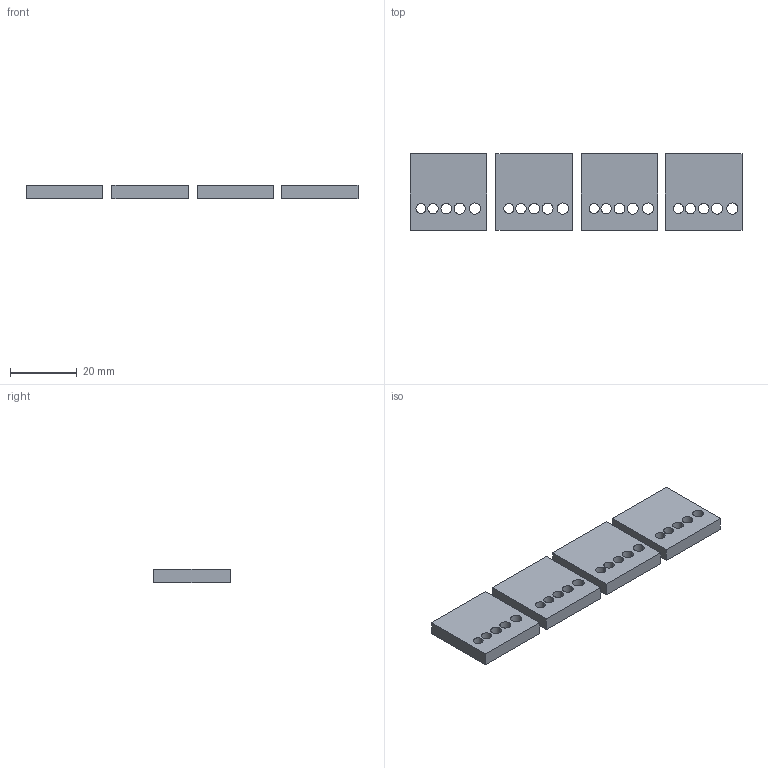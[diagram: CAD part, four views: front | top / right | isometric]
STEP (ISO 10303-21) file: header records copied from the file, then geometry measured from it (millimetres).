
FILE_DESCRIPTION(/* description */ (''),/* implementation_level */ '2;1');
FILE_NAME(/* name */ '3mm Bohrungen Geschwindigkeitstest',/* time_stamp */ '2026-08-25T15:11:19+02:00',/* author */ (''),/* organization */ (''),/* preprocessor_version */ 'ST-DEVELOPER v19.2',/* originating_system */ 'Rhino 8.34',/* authorisation */ '');
FILE_SCHEMA (('CONFIG_CONTROL_DESIGN'));
Length unit declared in the file: millimetre
Products named in the file (1): Document
Bounding box: 99.79 x 23 x 4 mm (x, y, z)
Volume: 7819.3 mm3; surface area: 6185.9 mm2
Topology: 4 solids, 4 shells, 64 faces, 192 edges, 171 vertices
Faces by surface type: cylinder 40, plane 24
Entity records: 2386 total; most frequent: CARTESIAN_POINT 670, ORIENTED_EDGE 336, DIRECTION 270, EDGE_CURVE 168, AXIS2_PLACEMENT_3D 167, VERTEX_POINT 112, EDGE_LOOP 104, CIRCLE 100
